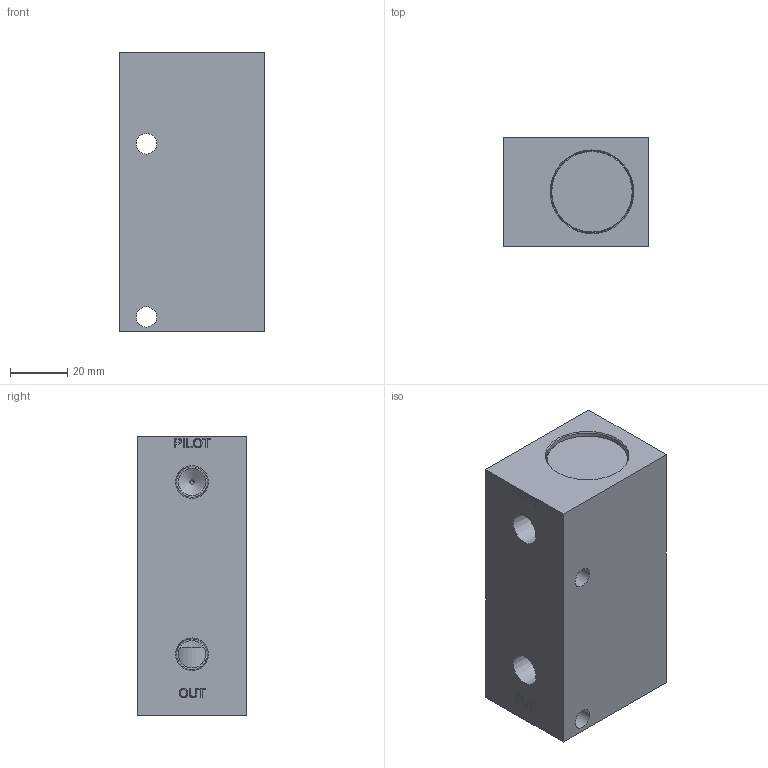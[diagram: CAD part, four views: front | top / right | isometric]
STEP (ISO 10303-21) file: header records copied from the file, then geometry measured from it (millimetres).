
FILE_DESCRIPTION(/* description */ (''),/* implementation_level */ '2;1');
FILE_NAME(/* name */ 'L:\ALADCO\Advertising\3D Content\Valves\Step Files - 2014-11-19 thru Present\32250X.stp',/* time_stamp */ '2014-11-19T13:53:10-06:00',/* author */ ('dmatz'),/* organization */ ('Aladdin Eng. & Manf. Inc.'),/* preprocessor_version */ 'ST-DEVELOPER v15.2',/* originating_system */ 'Autodesk Inventor 2014',/* authorisation */ '0 in^3');
FILE_SCHEMA (('AUTOMOTIVE_DESIGN { 1 0 10303 214 3 1 1 }'));
Length unit declared in the file: inch
Products named in the file (4): 311039; 301076; 321002; 322501
Bounding box: 50.8 x 38.1 x 97.23 mm (x, y, z)
Volume: 155385.8 mm3; surface area: 37146.4 mm2
Topology: 3 solids, 3 shells, 180 faces, 414 edges, 272 vertices
Faces by surface type: plane 98, cylinder 29, bspline 26, cone 19, torus 8
Full cylindrical faces by diameter (mm): 1.499 x1, 3.175 x1, 5.156 x1, 6.35 x1, 7.112 x2, 9.144 x1, 9.525 x3, 10.719 x3, 12.7 x1, 13.081 x1, 13.462 x1, 15.081 x1, 17.577 x1, 22.149 x1, 24.409 x1, 24.435 x1, 25.4 x2, 28.524 x4, 28.575 x2
Entity records: 5330 total; most frequent: CARTESIAN_POINT 1419, DIRECTION 686, ORIENTED_EDGE 682, EDGE_CURVE 341, EDGE_LOOP 282, VERTEX_POINT 255, AXIS2_PLACEMENT_3D 243, LINE 200
